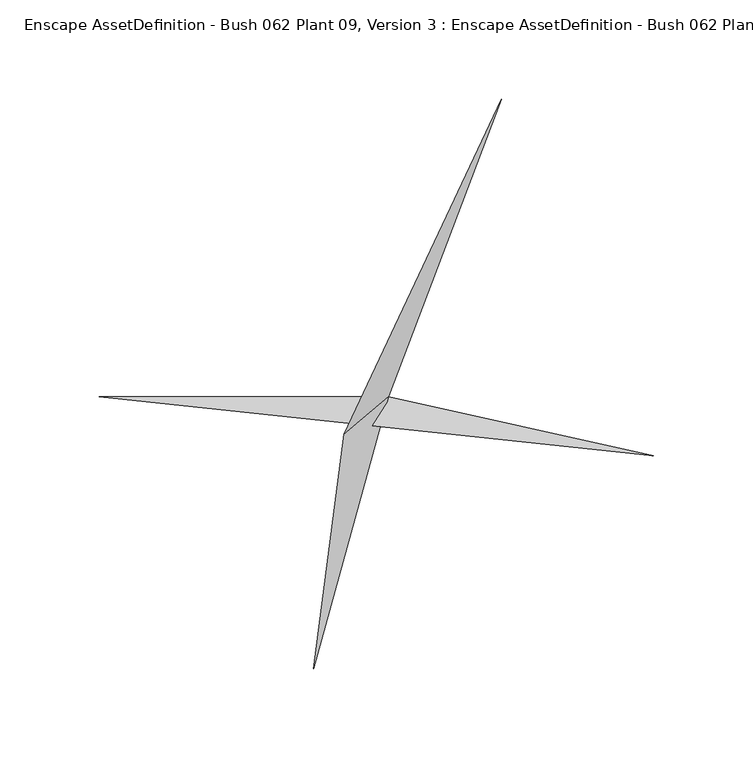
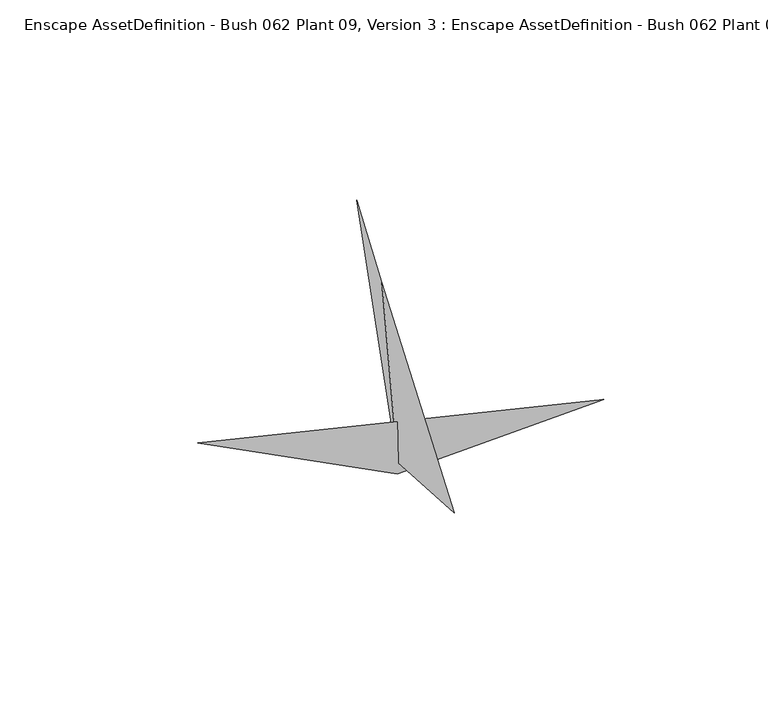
"""IFC4 building model written with IfcOpenShell, lengths in millimetres: geographic element geometry, Enscape AssetDefinition - Bush 062 Plant 09, Version 3 : Enscape AssetDefinition - Bush 062 Plant 09, Version 3."""

from ifc_helpers import new_model, si_unit, origin, place, context, project, spatial, triangles, source, transform, mapped, element, save


def enscape_assetdefinition_bush_062_plant_09_version_3_enscape_ccf8c8eb(model_context):
    return source(origin(), model_context, "Body", "Tessellation", [
        triangles([(-31.6400677, -141.3164287, 60.4780945), (139.4349302, -34.2604224, 23.2299025), (6.0643634, -4.5644226, -5.4022093), (-139.4349302, -4.5644226, 69.3071567), (62.9288715, 144.998644, 94.9282809), (6.0643634, -4.5644226, 3.6458854), (-16.1955242, -23.5155568, 161.5010252)], [[6, 1, 7], [4, 3, 2], [5, 6, 7]], closed=False),
    ])


if __name__ == "__main__":
    model = new_model("IFC4")
    model_context = context("Model", 3, world=origin())
    ifc_project = project(units=[si_unit("LENGTHUNIT", "METRE", prefix="MILLI")], contexts=[model_context])
    site = spatial("IfcSite", under=ifc_project)
    building = spatial("IfcBuilding", under=site)
    placement = place(None, origin())
    enscape_assetdefinition_bush_062_plant_09_version_3_enscape_shape = enscape_assetdefinition_bush_062_plant_09_version_3_enscape_ccf8c8eb(model_context)
    element("IfcGeographicElement", 1, ObjectType="Enscape AssetDefinition - Bush 062 Plant 09, Version 3 : Enscape AssetDefinition - Bush 062 Plant 09, Version 3", at=placement, inside=building, context=model_context, shape_type="MappedRepresentation", body=[
        mapped(enscape_assetdefinition_bush_062_plant_09_version_3_enscape_shape, transform((0.0, 0.0, 0.0), x_axis=(1.0, 0.0, 0.0), y_axis=(0.0, 1.0, 0.0), z_axis=(0.0, 0.0, 1.0))),
    ])
    save(model, "model.ifc")
